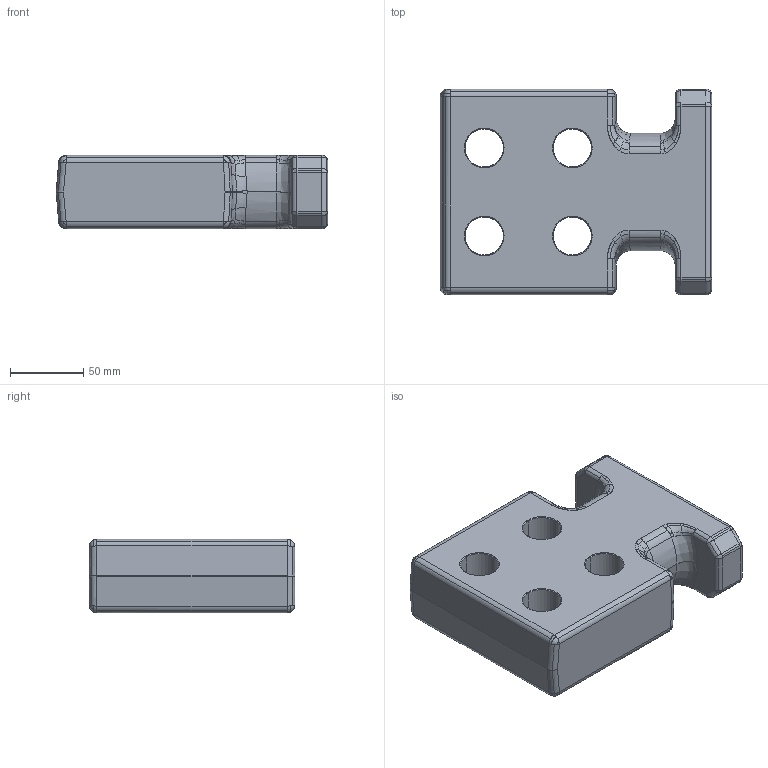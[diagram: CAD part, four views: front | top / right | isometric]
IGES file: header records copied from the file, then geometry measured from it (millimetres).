
Global section: file name: E:\UnigraphicsGraphicData\MISUMI_PRESS-PARTS\IGES\3d_chp80_03557_r00.igs; native system: NX V5.0; preprocessor: UGS NX IGES V5.0; author: MISUMI; date: 20110105.160231; units: millimetre
Bounding box: 185 x 140 x 50 mm (x, y, z)
Surface area: 90962.1 mm2 (no closed solid volume)
Topology: 0 solids, 0 shells, 307 faces, 1626 edges, 1602 vertices
Faces by surface type: bspline 307
